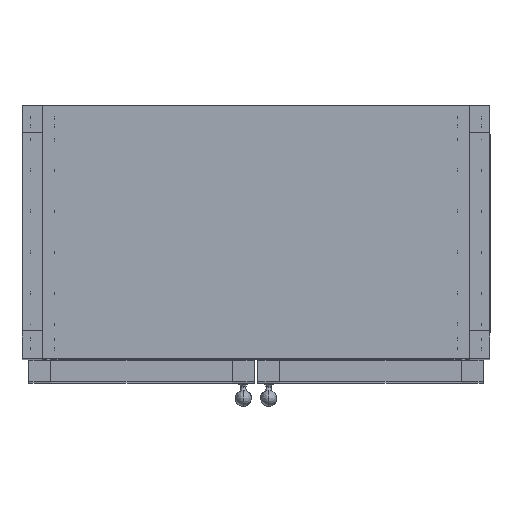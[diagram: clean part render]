
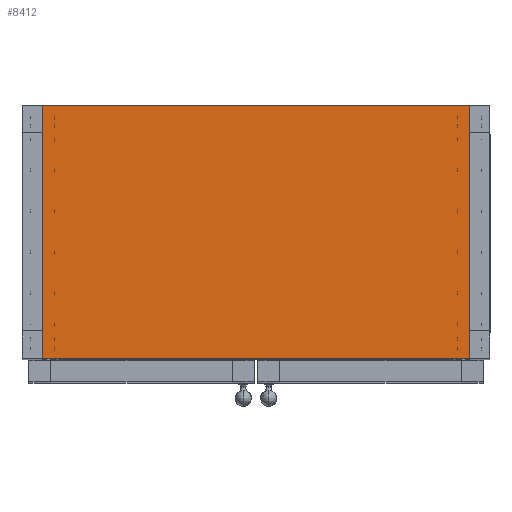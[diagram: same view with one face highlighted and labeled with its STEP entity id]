
A CAD part, top view. The second image highlights one B-rep face of the part: STEP entity #8412.
In plain terms, the highlighted planar face has unit normal (0, 0, 1).
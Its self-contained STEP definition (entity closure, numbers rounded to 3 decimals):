
#8412=ADVANCED_FACE('',(#11284),#47360,.T.);
#11284=FACE_OUTER_BOUND('',#14484,.T.);
#14484=EDGE_LOOP('',(#28748,#28749,#28750,#28751));
#28748=ORIENTED_EDGE('',*,*,#36242,.T.);
#28749=ORIENTED_EDGE('',*,*,#36246,.T.);
#28750=ORIENTED_EDGE('',*,*,#36228,.T.);
#28751=ORIENTED_EDGE('',*,*,#36239,.T.);
#36228=EDGE_CURVE('',#46336,#46338,#41620,.T.);
#36239=EDGE_CURVE('',#46338,#46350,#41631,.T.);
#36242=EDGE_CURVE('',#46350,#46352,#41634,.T.);
#36246=EDGE_CURVE('',#46352,#46336,#41638,.T.);
#41620=B_SPLINE_CURVE_WITH_KNOTS('',1,(#102876,#102877),.UNSPECIFIED.,.F.,
 .F.,(2,2),(-625.,0.),.UNSPECIFIED.);
#41631=B_SPLINE_CURVE_WITH_KNOTS('',1,(#102898,#102899),.UNSPECIFIED.,.F.,
 .F.,(2,2),(-370.,0.),.UNSPECIFIED.);
#41634=B_SPLINE_CURVE_WITH_KNOTS('',1,(#102904,#102905),.UNSPECIFIED.,.F.,
 .F.,(2,2),(-625.,0.),.UNSPECIFIED.);
#41638=B_SPLINE_CURVE_WITH_KNOTS('',1,(#102912,#102913),.UNSPECIFIED.,.F.,
 .F.,(2,2),(-370.,0.),.UNSPECIFIED.);
#46336=VERTEX_POINT('',#102463);
#46338=VERTEX_POINT('',#102465);
#46350=VERTEX_POINT('',#102477);
#46352=VERTEX_POINT('',#102479);
#47360=PLANE('',#49531);
#49531=AXIS2_PLACEMENT_3D('',#101958,#51655,$);
#51655=DIRECTION('',(0.,0.,1.));
#101958=CARTESIAN_POINT('',(-349.581,-222.661,1425.204));
#102463=CARTESIAN_POINT('',(-287.081,-185.66,1425.204));
#102465=CARTESIAN_POINT('',(337.919,-185.66,1425.204));
#102477=CARTESIAN_POINT('',(337.919,184.34,1425.204));
#102479=CARTESIAN_POINT('',(-287.081,184.34,1425.204));
#102876=CARTESIAN_POINT('',(-287.081,-185.66,1425.204));
#102877=CARTESIAN_POINT('',(337.919,-185.66,1425.204));
#102898=CARTESIAN_POINT('',(337.919,-185.66,1425.204));
#102899=CARTESIAN_POINT('',(337.919,184.34,1425.204));
#102904=CARTESIAN_POINT('',(337.919,184.34,1425.204));
#102905=CARTESIAN_POINT('',(-287.081,184.34,1425.204));
#102912=CARTESIAN_POINT('',(-287.081,184.34,1425.204));
#102913=CARTESIAN_POINT('',(-287.081,-185.66,1425.204));
